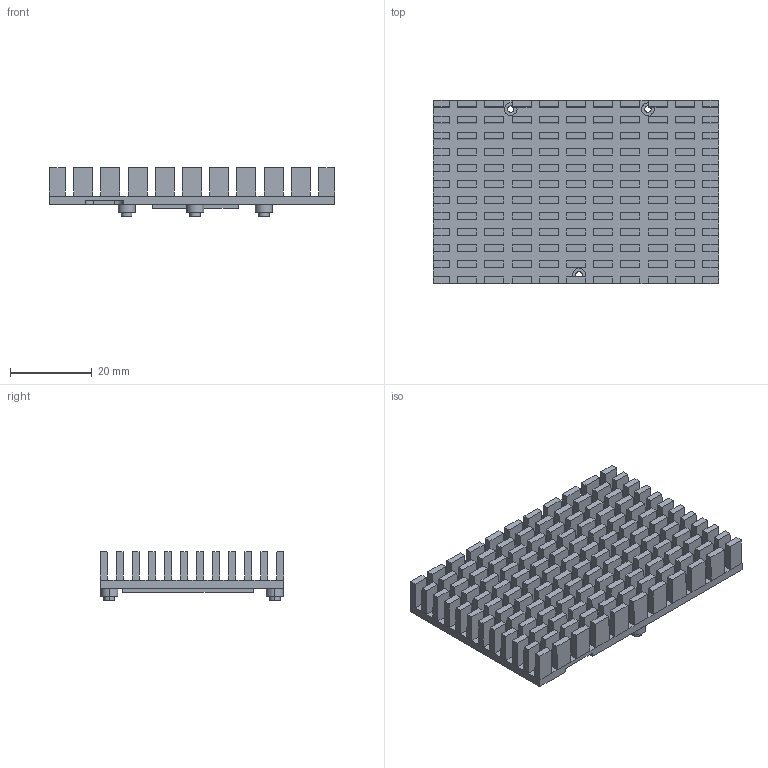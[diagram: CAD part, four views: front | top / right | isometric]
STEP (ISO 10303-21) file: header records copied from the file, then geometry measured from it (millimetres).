
FILE_DESCRIPTION (( 'STEP AP214' ), '1' );
FILE_NAME ('FIT0982-Thin-Heatsink.STEP', '2024-02-23T09:27:57', ( 'China' ), ( 'Microsoft' ), 'SwSTEP 2.0', 'SolidWorks 2021', '' );
FILE_SCHEMA (( 'AUTOMOTIVE_DESIGN' ));
Length unit declared in the file: millimetre
Products named in the file (1): FIT0982-Thin-Heatsink
Bounding box: 70 x 45 x 12 mm (x, y, z)
Volume: 13751.6 mm3; surface area: 18498.2 mm2
Topology: 4 solids, 4 shells, 713 faces, 1754 edges, 1140 vertices
Faces by surface type: plane 687, cylinder 26
Entity records: 20607 total; most frequent: CARTESIAN_POINT 3620, ORIENTED_EDGE 3508, DIRECTION 3236, EDGE_CURVE 1754, VECTOR 1692, LINE 1692, VERTEX_POINT 1140, EDGE_LOOP 816
